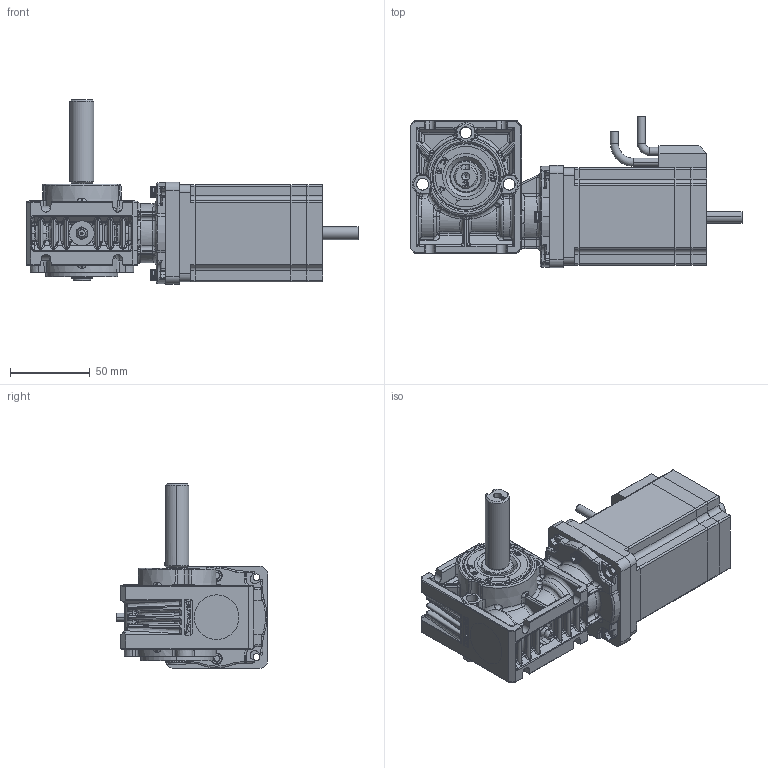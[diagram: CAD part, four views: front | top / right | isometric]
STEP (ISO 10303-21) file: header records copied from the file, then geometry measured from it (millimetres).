
FILE_DESCRIPTION (( 'STEP AP214' ), '1' );
FILE_NAME ('PBL60-50-GB28 - Shaft.STEP', '2024-11-26T15:16:50', ( '' ), ( '' ), 'SwSTEP 2.0', 'SolidWorks 2023', '' );
FILE_SCHEMA (( 'AUTOMOTIVE_DESIGN' ));
Length unit declared in the file: millimetre
Products named in the file (1): PBL60-50-GB28 - Shaft
Bounding box: 208 x 94.89 x 115.67 mm (x, y, z)
Volume: 549627.2 mm3; surface area: 150614 mm2
Topology: 24 solids, 24 shells, 4048 faces, 10349 edges, 6448 vertices
Faces by surface type: cylinder 1342, plane 1294, bspline 978, torus 169, cone 149, sphere 116
Entity records: 220137 total; most frequent: CARTESIAN_POINT 85351, ORIENTED_EDGE 20436, DIRECTION 16311, EDGE_CURVE 10218, VERTEX_POINT 6439, AXIS2_PLACEMENT_3D 5826, VECTOR 4659, LINE 4659
